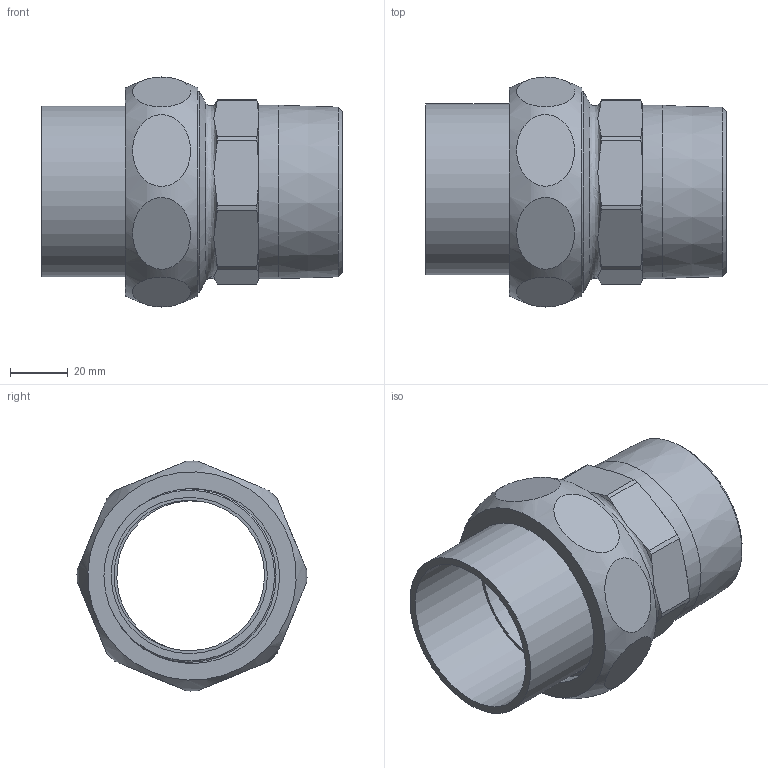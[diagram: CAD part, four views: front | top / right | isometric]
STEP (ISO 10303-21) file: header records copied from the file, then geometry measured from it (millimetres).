
FILE_DESCRIPTION((''),'2;1');
FILE_NAME('\\lg50001\SANHA_Legnica\Engineering\Public\RYSUNKI\SANHA POLSKA\4333g\step\14333g_54-2(1).stp','2013-06-27T16:12:29',('pajchrowski'),(''),'Autodesk Inventor 2009','Autodesk Inventor 2009','');
FILE_SCHEMA(('AUTOMOTIVE_DESIGN { 1 0 10303 214 1 1 1 1 }'));
Length unit declared in the file: millimetre
Products named in the file (5): 14333g_54-2(1); 14374_238(0); 1DCU238; 14372_54-238(1); 14376G_2-238(2)
Assembly tree (4 placements, depth 2):
  14333g_54-2(1)
    14374_238(0)
    1DCU238
    14372_54-238(1)
    14376G_2-238(2)
Bounding box: 104 x 79.49 x 79.49 mm (x, y, z)
Volume: 111662.5 mm3; surface area: 57926.7 mm2
Topology: 4 solids, 4 shells, 70 faces, 147 edges, 95 vertices
Faces by surface type: plane 27, cone 21, cylinder 19, bspline 3
Full cylindrical faces by diameter (mm): 52 x2, 54 x1, 55 x1, 59 x1, 60 x1, 60.5 x1, 65 x1, 65.5 x1, 66.44 x1, 69.4 x1
Entity records: 3673 total; most frequent: CARTESIAN_POINT 2167, DIRECTION 290, ORIENTED_EDGE 250, AXIS2_PLACEMENT_3D 137, EDGE_CURVE 125, EDGE_LOOP 108, VERTEX_POINT 93, FACE_OUTER_BOUND 70
